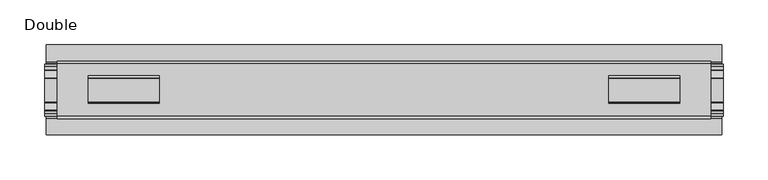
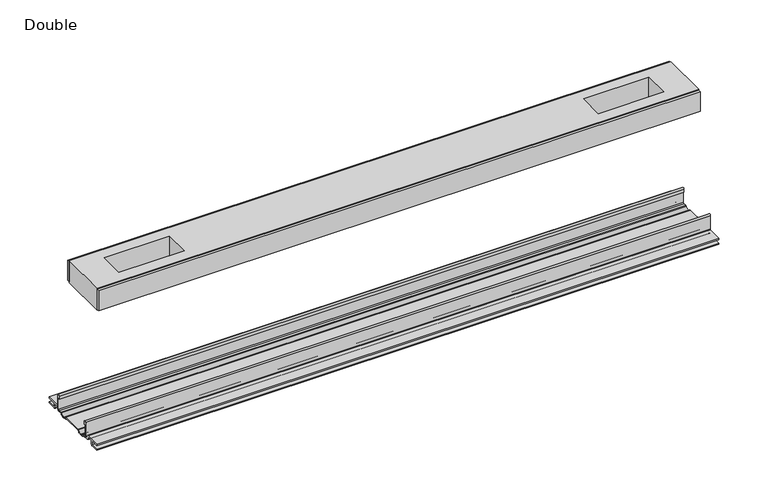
"""IFC4 building model written with IfcOpenShell, lengths in millimetres: proxy geometry, Frame-Teknion-FHCRA-Horizontal_Rail-R2022 : Double."""

from ifc_helpers import new_model, si_unit, point, frame, frame_2d, origin, place, context, project, spatial, polyline, circle_curve, trimmed, segment, composite_curve, outline, extrude, source, transform, mapped, element, save


def double_1303dec0(model_context):
    return source(origin(), model_context, "Body", "SweptSolid", [
        extrude(outline(polyline([(364.0420089, 29.0068005), (-364.0420089, 29.0068005), (-364.0420089, 32.1817997), (364.0420089, 32.1817997), (364.0420089, 29.0068005)])), frame((0.0, 0.0, 149.8401622), z_axis=(0.0, 0.0, 1.0), x_axis=(1.0, 0.0, 0.0)), (0.0, 0.0, 1.0), 25.3999939),
        extrude(outline(polyline([(364.0420089, -32.1817997), (-364.0420089, -32.1817997), (-364.0420089, -29.0068005), (364.0420089, -29.0068005), (364.0420089, -32.1817997)])), frame((0.0, 0.0, 149.8401622), z_axis=(0.0, 0.0, 1.0), x_axis=(1.0, 0.0, 0.0)), (0.0, 0.0, 1.0), 25.3999939),
        extrude(outline(polyline([(364.0420089, -29.0068005), (-364.0420089, -29.0068005), (-364.0420089, 29.0068005), (364.0420089, 29.0068005), (364.0420089, -29.0068005)]), holes=[polyline([(329.6249963, -15.1130038), (329.6249963, 15.875003), (250.5801845, 15.875003), (250.5801845, -15.1130038), (329.6249963, -15.1130038)]), polyline([(-329.6249963, -15.1130038), (-250.5801845, -15.1130038), (-250.5801845, 15.875003), (-329.6249963, 15.875003), (-329.6249963, -15.1130038)])]), frame((0.0, 0.0, 148.4185847), z_axis=(0.0, 0.0, 1.0), x_axis=(1.0, 0.0, 0.0)), (0.0, 0.0, 1.0), 27.9999988),
        extrude(outline(composite_curve([segment(trimmed(circle_curve(frame_2d((26.6420561, -7.7516037)), 2.17424), [point((28.8162961, -7.7516037))], [point((26.6420561, -9.9258438))], False, "CARTESIAN"), True, "CONTINUOUS"), segment(polyline([(26.6420561, -9.9258438), (22.3510694, -9.9258438)]), True, "CONTINUOUS"), segment(trimmed(circle_curve(frame_2d((17.7706549, -6.4800016)), 5.7318431), [point((22.3510694, -9.9258438))], [point((13.1902404, -9.9258438))], False, "CARTESIAN"), True, "CONTINUOUS"), segment(polyline([(13.1902404, -9.9258438), (-13.57124, -9.9258438)]), True, "CONTINUOUS"), segment(trimmed(circle_curve(frame_2d((-18.1516545, -6.4800016)), 5.7318431), [point((-13.57124, -9.9258438))], [point((-22.732069, -9.9258438))], False, "CARTESIAN"), True, "CONTINUOUS"), segment(polyline([(-22.732069, -9.9258438), (-27.0230557, -9.9258438)]), True, "CONTINUOUS"), segment(trimmed(circle_curve(frame_2d((-27.0230557, -7.7516037)), 2.17424), [point((-27.0230557, -9.9258438))], [point((-29.1972958, -7.7516037))], False, "CARTESIAN"), True, "CONTINUOUS"), segment(polyline([(-29.1972958, -7.7516037), (-29.1972958, 9.8607558)]), True, "CONTINUOUS"), segment(trimmed(circle_curve(frame_2d((-27.9780978, 9.8607558)), 1.2191979), [point((-29.1972958, 9.8607558))], [point((-26.7588999, 9.8607558))], False, "CARTESIAN"), True, "CONTINUOUS"), segment(polyline([(-26.7588999, 9.8607558), (-26.7588999, 5.9999563), (-28.0390765, 5.9999563), (-28.0390765, -7.7516037)]), True, "CONTINUOUS"), segment(trimmed(circle_curve(frame_2d((-27.0230557, -7.7516037)), 1.0160208), [point((-28.0390765, -7.7516037))], [point((-27.0295728, -8.7676036))], True, "CARTESIAN"), True, "CONTINUOUS"), segment(polyline([(-27.0295728, -8.7676036), (-23.0866222, -8.7676036), (-22.1732605, -8.968753)]), True, "CONTINUOUS"), segment(trimmed(circle_curve(frame_2d((-18.1483018, -6.1259382)), 4.9276657), [point((-22.1732605, -8.968753))], [point((-14.123343, -8.968753))], True, "CARTESIAN"), True, "CONTINUOUS"), segment(polyline([(-14.123343, -8.968753), (-13.2099722, -8.7676036), (12.8289726, -8.7676036), (13.7423434, -8.968753)]), True, "CONTINUOUS"), segment(trimmed(circle_curve(frame_2d((17.7673021, -6.1259382)), 4.9276657), [point((13.7423434, -8.968753))], [point((21.7922609, -8.968753))], True, "CARTESIAN"), True, "CONTINUOUS"), segment(polyline([(21.7922609, -8.968753), (22.7056226, -8.7676036), (26.6485732, -8.7676036)]), True, "CONTINUOUS"), segment(trimmed(circle_curve(frame_2d((26.6420561, -7.7516037)), 1.0160208), [point((26.6485732, -8.7676036))], [point((27.6580769, -7.7516037))], True, "CARTESIAN"), True, "CONTINUOUS"), segment(polyline([(27.6580769, -7.7516037), (27.6580769, 5.9999563), (26.3779003, 5.9999563), (26.3779003, 9.8607558)]), True, "CONTINUOUS"), segment(trimmed(circle_curve(frame_2d((27.5970982, 9.8607558)), 1.2191979), [point((26.3779003, 9.8607558))], [point((28.8162961, 9.8607558))], False, "CARTESIAN"), True, "CONTINUOUS"), segment(polyline([(28.8162961, 9.8607558), (28.8162961, -7.7516037)]), True, "CONTINUOUS")], self_intersect=False)), frame((-378.1008998, 0.0, 0.0), z_axis=(1.0, 0.0, 0.0), x_axis=(0.0, 1.0, 0.0)), (0.0, 0.0, 1.0), 756.2017997),
        extrude(outline(composite_curve([segment(polyline([(50.2668422, -13.9898438), (39.6557522, -13.9898438)]), True, "CONTINUOUS"), segment(trimmed(circle_curve(frame_2d((39.6557522, -12.4658438)), 1.524), [point((39.6557522, -13.9898438))], [point((38.1317522, -12.4658438))], False, "CARTESIAN"), True, "CONTINUOUS"), segment(polyline([(38.1317522, -12.4658438), (38.1317522, -7.766844), (31.3054974, -7.766844), (31.3054974, -10.0528438)]), True, "CONTINUOUS"), segment(trimmed(circle_curve(frame_2d((29.7814974, -10.0528438)), 1.524), [point((31.3054974, -10.0528438))], [point((29.7814974, -11.5768438))], False, "CARTESIAN"), True, "CONTINUOUS"), segment(polyline([(29.7814974, -11.5768438), (23.2753553, -11.5768438)]), True, "CONTINUOUS"), segment(trimmed(circle_curve(frame_2d((17.7673021, -6.4968436)), 7.4930002), [point((23.2753553, -11.5768438))], [point((12.5094972, -11.8354331))], False, "CARTESIAN"), True, "CONTINUOUS"), segment(polyline([(12.5094972, -11.8354331), (-12.8904968, -11.8354331)]), True, "CONTINUOUS"), segment(trimmed(circle_curve(frame_2d((-18.1483018, -6.4968436)), 7.4930002), [point((-12.8904968, -11.8354331))], [point((-23.6563549, -11.5768438))], False, "CARTESIAN"), True, "CONTINUOUS"), segment(polyline([(-23.6563549, -11.5768438), (-30.1624971, -11.5768438)]), True, "CONTINUOUS"), segment(trimmed(circle_curve(frame_2d((-30.1624971, -10.0528438)), 1.524), [point((-30.1624971, -11.5768438))], [point((-31.686497, -10.0528438))], False, "CARTESIAN"), True, "CONTINUOUS"), segment(polyline([(-31.686497, -10.0528438), (-31.686497, -7.766844), (-38.5127519, -7.766844), (-38.5127519, -12.4658438)]), True, "CONTINUOUS"), segment(trimmed(circle_curve(frame_2d((-40.0367518, -12.4658438)), 1.524), [point((-38.5127519, -12.4658438))], [point((-40.0367518, -13.9898438))], False, "CARTESIAN"), True, "CONTINUOUS"), segment(polyline([(-40.0367518, -13.9898438), (-50.00625, -13.9898438), (-50.00625, -12.3388438), (-40.1637503, -12.3388438), (-40.1637503, -7.766844), (-50.00625, -7.766844), (-50.00625, -6.1158439), (-31.6239218, -6.1158439)]), True, "CONTINUOUS"), segment(trimmed(circle_curve(frame_2d((-31.6864982, -7.7656583)), 1.6510007), [point((-31.6239218, -6.1158439))], [point((-30.0354975, -7.7656583))], False, "CARTESIAN"), True, "CONTINUOUS"), segment(polyline([(-30.0354975, -7.7656583), (-30.0354975, -9.9258438), (-23.486834, -9.9258438)]), True, "CONTINUOUS"), segment(trimmed(circle_curve(frame_2d((-18.1483018, -5.2268471)), 7.1119966), [point((-23.486834, -9.9258438))], [point((-12.8097695, -9.9258438))], True, "CARTESIAN"), True, "CONTINUOUS"), segment(polyline([(-12.8097695, -9.9258438), (12.4287699, -9.9258438)]), True, "CONTINUOUS"), segment(trimmed(circle_curve(frame_2d((17.7673021, -5.2268471)), 7.1119966), [point((12.4287699, -9.9258438))], [point((23.1058344, -9.9258438))], True, "CARTESIAN"), True, "CONTINUOUS"), segment(polyline([(23.1058344, -9.9258438), (29.6544978, -9.9258438), (29.6544978, -7.6398436)]), True, "CONTINUOUS"), segment(trimmed(circle_curve(frame_2d((31.1784975, -7.6398436)), 1.5239997), [point((29.6544978, -7.6398436))], [point((31.1784975, -6.1158439))], False, "CARTESIAN"), True, "CONTINUOUS"), segment(polyline([(31.1784975, -6.1158439), (50.2668422, -6.1158439), (50.2240211, -7.766844), (39.7827507, -7.766844), (39.7827507, -12.3388438), (50.2240211, -12.3388438), (50.2668422, -13.9898438)]), True, "CONTINUOUS")], self_intersect=False)), frame((-376.4498998, 0.0, 0.0), z_axis=(1.0, 0.0, 0.0), x_axis=(0.0, 1.0, 0.0)), (0.0, 0.0, 1.0), 752.8997997),
    ])


if __name__ == "__main__":
    model = new_model("IFC4")
    model_context = context("Model", 3, world=origin())
    ifc_project = project(units=[si_unit("LENGTHUNIT", "METRE", prefix="MILLI")], contexts=[model_context])
    site = spatial("IfcSite", under=ifc_project)
    building = spatial("IfcBuilding", under=site)
    placement = place(None, origin())
    double_shape = double_1303dec0(model_context)
    element("IfcBuildingElementProxy", 1, Name="Frame-Teknion-FHCRA-Horizontal_Rail-R2022 : Double", ObjectType="Frame-Teknion-FHCRA-Horizontal_Rail-R2022 : Double", at=placement, inside=building, context=model_context, shape_type="MappedRepresentation", body=[
        mapped(double_shape, transform((0.0, 0.0, 0.0), x_axis=(1.0, 0.0, 0.0), y_axis=(0.0, 1.0, 0.0), z_axis=(0.0, 0.0, 1.0))),
    ])
    save(model, "model.ifc")
